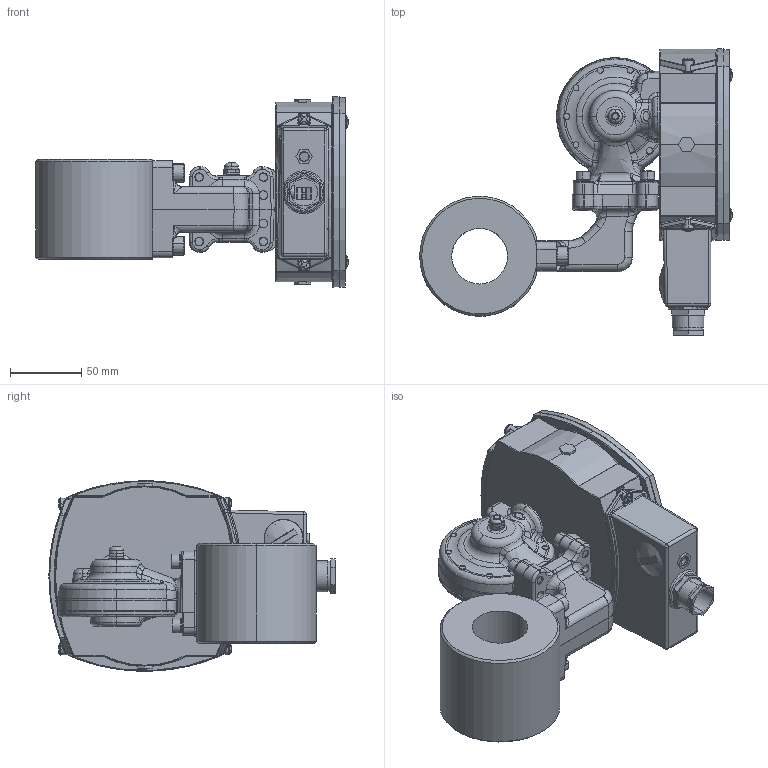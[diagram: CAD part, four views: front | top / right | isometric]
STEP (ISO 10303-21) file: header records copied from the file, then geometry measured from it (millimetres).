
FILE_DESCRIPTION (( 'STEP AP214' ), '1' );
FILE_NAME ('S FA32.STEP', '2016-09-21T07:08:12', ( 'User' ), ( 'HP' ), 'SwSTEP 2.0', 'SolidWorks 2016', '' );
FILE_SCHEMA (( 'AUTOMOTIVE_DESIGN' ));
Length unit declared in the file: millimetre
Products named in the file (35): ID_3_3; kupolmutter_1; ID_2_4; m_X_E4ssingsmembran_1; ID_1_4; S hus; ID_1_4_8; S FA32; ID_14; ID_13; FA32 anslutningsror; ID_12; fa hals; ID_1_1; ID_2_2; ID_1_4_5; ID_1_2; ID_10; membranhus br; ID_1_4_4; M5 membranskruvar_1; ID_1_4_3; skruv_membranhus_1; ID_1_1_2; fj_X_E4derbricka till membranhus BR_1; ID_9; MC6S M6x22_1; ID_1_4_2; Lock kontrollerad HMAB ELETTA 20160908_1; ID_7_2; ID_6_1; Membranhus kontrollerad HMAB ELETTA 20160908_1; ID_5_2; ID_4_3; S2_25_internal_2_1
Assembly tree (54 placements, depth 5):
  S FA32
    S hus
      ID_1_1
        ID_1_4
        ID_2_4
        ID_3_3
        ID_4_3
        ID_5_2
        ID_6_1  x4
        ID_7_2  x4
        ID_1_4_2
        ID_1_1_2
          ID_9  x2
        ID_1_4_3
        ID_1_4_4
        ID_10
        ID_1_4_5
      ID_12  x2
      ID_13
      ID_14
      ID_1_4_8
    membranhus br
      S2_25_internal_2_1
        m_X_E4ssingsmembran_1
        kupolmutter_1
      Membranhus kontrollerad HMAB ELETTA 20160908_1
      Lock kontrollerad HMAB ELETTA 20160908_1
      MC6S M6x22_1  x4
      M5 membranskruvar_1  x9
        fj_X_E4derbricka till membranhus BR_1
        skruv_membranhus_1
    fa hals
      ID_1_2
      ID_2_2  x2
    FA32 anslutningsror
Bounding box: 219 x 200.42 x 133.42 mm (x, y, z)
Volume: 792114.5 mm3; surface area: 284393.7 mm2
Topology: 56 solids, 56 shells, 2414 faces, 5933 edges, 3681 vertices
Faces by surface type: plane 862, cylinder 687, bspline 585, cone 206, torus 67, sphere 7
Entity records: 101024 total; most frequent: CARTESIAN_POINT 58766, ORIENTED_EDGE 9332, DIRECTION 7179, EDGE_CURVE 4666, VERTEX_POINT 2914, AXIS2_PLACEMENT_3D 2677, EDGE_LOOP 2106, ADVANCED_FACE 1891
